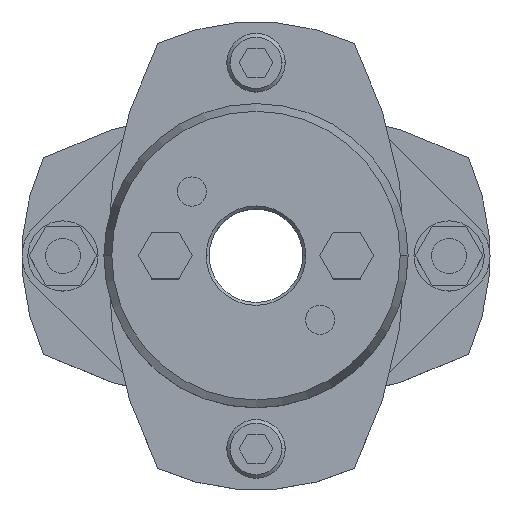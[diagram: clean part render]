
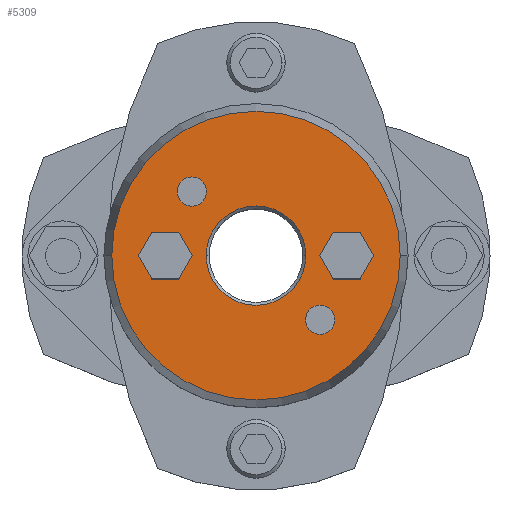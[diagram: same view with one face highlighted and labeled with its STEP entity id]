
A CAD part, top view. The second image highlights one B-rep face of the part: STEP entity #5309.
In plain terms, the highlighted planar face has unit normal (0, 0, 1).
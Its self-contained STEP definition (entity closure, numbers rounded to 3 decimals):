
#857=CARTESIAN_POINT('',(-8.5,0.,35.875));
#858=VERTEX_POINT('',#857);
#874=CARTESIAN_POINT('',(8.5,0.,35.875));
#875=VERTEX_POINT('',#874);
#882=CARTESIAN_POINT('',(0.,0.,35.875));
#883=DIRECTION('',(0.0,0.0,1.0));
#884=DIRECTION('',(-1.0,0.0,0.0));
#885=AXIS2_PLACEMENT_3D('',#882,#883,#884);
#886=CIRCLE('',#885,8.5);
#887=EDGE_CURVE('',#875,#858,#886,.T.);
#1045=CARTESIAN_POINT('',(24.66,0.,35.875));
#1046=VERTEX_POINT('',#1045);
#1053=CARTESIAN_POINT('',(-24.66,0.,35.875));
#1054=VERTEX_POINT('',#1053);
#1055=CARTESIAN_POINT('',(0.,0.,35.875));
#1056=DIRECTION('',(0.0,0.0,-1.0));
#1057=DIRECTION('',(1.0,0.0,0.0));
#1058=AXIS2_PLACEMENT_3D('',#1055,#1056,#1057);
#1059=CIRCLE('',#1058,24.66);
#1060=EDGE_CURVE('',#1046,#1054,#1059,.T.);
#1155=CARTESIAN_POINT('',(-13.46,10.96,35.875));
#1156=VERTEX_POINT('',#1155);
#1172=CARTESIAN_POINT('',(-8.46,10.96,35.875));
#1173=VERTEX_POINT('',#1172);
#1180=CARTESIAN_POINT('',(-10.96,10.96,35.875));
#1181=DIRECTION('',(0.0,0.0,-1.0));
#1182=DIRECTION('',(-1.0,0.0,0.0));
#1183=AXIS2_PLACEMENT_3D('',#1180,#1181,#1182);
#1184=CIRCLE('',#1183,2.5);
#1185=EDGE_CURVE('',#1156,#1173,#1184,.T.);
#1197=CARTESIAN_POINT('',(8.46,-10.96,35.875));
#1198=VERTEX_POINT('',#1197);
#1214=CARTESIAN_POINT('',(13.46,-10.96,35.875));
#1215=VERTEX_POINT('',#1214);
#1222=CARTESIAN_POINT('',(10.96,-10.96,35.875));
#1223=DIRECTION('',(0.0,0.0,-1.0));
#1224=DIRECTION('',(-1.0,0.0,0.0));
#1225=AXIS2_PLACEMENT_3D('',#1222,#1223,#1224);
#1226=CIRCLE('',#1225,2.5);
#1227=EDGE_CURVE('',#1198,#1215,#1226,.T.);
#4553=CARTESIAN_POINT('',(10.881,0.,35.875));
#4554=VERTEX_POINT('',#4553);
#4561=CARTESIAN_POINT('',(13.191,-4.,35.875));
#4562=VERTEX_POINT('',#4561);
#4563=CARTESIAN_POINT('',(13.191,-4.,35.875));
#4564=DIRECTION('',(-0.5,0.866,0.0));
#4565=VECTOR('',#4564,4.619);
#4566=LINE('',#4563,#4565);
#4567=EDGE_CURVE('',#4562,#4554,#4566,.T.);
#4591=CARTESIAN_POINT('',(13.191,4.,35.875));
#4592=VERTEX_POINT('',#4591);
#4599=CARTESIAN_POINT('',(10.881,0.,35.875));
#4600=DIRECTION('',(0.5,0.866,0.0));
#4601=VECTOR('',#4600,4.619);
#4602=LINE('',#4599,#4601);
#4603=EDGE_CURVE('',#4554,#4592,#4602,.T.);
#4622=CARTESIAN_POINT('',(17.809,4.,35.875));
#4623=VERTEX_POINT('',#4622);
#4630=CARTESIAN_POINT('',(13.191,4.,35.875));
#4631=DIRECTION('',(1.0,0.0,0.0));
#4632=VECTOR('',#4631,4.619);
#4633=LINE('',#4630,#4632);
#4634=EDGE_CURVE('',#4592,#4623,#4633,.T.);
#4653=CARTESIAN_POINT('',(20.119,0.,35.875));
#4654=VERTEX_POINT('',#4653);
#4661=CARTESIAN_POINT('',(17.809,4.,35.875));
#4662=DIRECTION('',(0.5,-0.866,0.0));
#4663=VECTOR('',#4662,4.619);
#4664=LINE('',#4661,#4663);
#4665=EDGE_CURVE('',#4623,#4654,#4664,.T.);
#4684=CARTESIAN_POINT('',(17.809,-4.,35.875));
#4685=VERTEX_POINT('',#4684);
#4692=CARTESIAN_POINT('',(20.119,0.,35.875));
#4693=DIRECTION('',(-0.5,-0.866,0.0));
#4694=VECTOR('',#4693,4.619);
#4695=LINE('',#4692,#4694);
#4696=EDGE_CURVE('',#4654,#4685,#4695,.T.);
#4714=CARTESIAN_POINT('',(17.809,-4.,35.875));
#4715=DIRECTION('',(-1.0,0.0,0.0));
#4716=VECTOR('',#4715,4.619);
#4717=LINE('',#4714,#4716);
#4718=EDGE_CURVE('',#4685,#4562,#4717,.T.);
#4753=CARTESIAN_POINT('',(-20.119,0.,35.875));
#4754=VERTEX_POINT('',#4753);
#4761=CARTESIAN_POINT('',(-17.809,-4.,35.875));
#4762=VERTEX_POINT('',#4761);
#4763=CARTESIAN_POINT('',(-17.809,-4.,35.875));
#4764=DIRECTION('',(-0.5,0.866,0.0));
#4765=VECTOR('',#4764,4.619);
#4766=LINE('',#4763,#4765);
#4767=EDGE_CURVE('',#4762,#4754,#4766,.T.);
#4791=CARTESIAN_POINT('',(-17.809,4.,35.875));
#4792=VERTEX_POINT('',#4791);
#4799=CARTESIAN_POINT('',(-20.119,0.,35.875));
#4800=DIRECTION('',(0.5,0.866,0.0));
#4801=VECTOR('',#4800,4.619);
#4802=LINE('',#4799,#4801);
#4803=EDGE_CURVE('',#4754,#4792,#4802,.T.);
#4822=CARTESIAN_POINT('',(-13.191,4.,35.875));
#4823=VERTEX_POINT('',#4822);
#4830=CARTESIAN_POINT('',(-17.809,4.,35.875));
#4831=DIRECTION('',(1.0,0.0,0.0));
#4832=VECTOR('',#4831,4.619);
#4833=LINE('',#4830,#4832);
#4834=EDGE_CURVE('',#4792,#4823,#4833,.T.);
#4853=CARTESIAN_POINT('',(-10.881,0.,35.875));
#4854=VERTEX_POINT('',#4853);
#4861=CARTESIAN_POINT('',(-13.191,4.,35.875));
#4862=DIRECTION('',(0.5,-0.866,0.0));
#4863=VECTOR('',#4862,4.619);
#4864=LINE('',#4861,#4863);
#4865=EDGE_CURVE('',#4823,#4854,#4864,.T.);
#4884=CARTESIAN_POINT('',(-13.191,-4.,35.875));
#4885=VERTEX_POINT('',#4884);
#4892=CARTESIAN_POINT('',(-10.881,0.,35.875));
#4893=DIRECTION('',(-0.5,-0.866,0.0));
#4894=VECTOR('',#4893,4.619);
#4895=LINE('',#4892,#4894);
#4896=EDGE_CURVE('',#4854,#4885,#4895,.T.);
#4914=CARTESIAN_POINT('',(-13.191,-4.,35.875));
#4915=DIRECTION('',(-1.0,0.0,0.0));
#4916=VECTOR('',#4915,4.619);
#4917=LINE('',#4914,#4916);
#4918=EDGE_CURVE('',#4885,#4762,#4917,.T.);
#4944=CARTESIAN_POINT('',(10.96,-10.96,35.875));
#4945=DIRECTION('',(0.0,0.0,-1.0));
#4946=DIRECTION('',(-1.0,0.0,0.0));
#4947=AXIS2_PLACEMENT_3D('',#4944,#4945,#4946);
#4948=CIRCLE('',#4947,2.5);
#4949=EDGE_CURVE('',#1215,#1198,#4948,.T.);
#4978=CARTESIAN_POINT('',(-10.96,10.96,35.875));
#4979=DIRECTION('',(0.0,0.0,-1.0));
#4980=DIRECTION('',(-1.0,0.0,0.0));
#4981=AXIS2_PLACEMENT_3D('',#4978,#4979,#4980);
#4982=CIRCLE('',#4981,2.5);
#4983=EDGE_CURVE('',#1173,#1156,#4982,.T.);
#5256=CARTESIAN_POINT('',(0.,0.,35.875));
#5257=DIRECTION('',(0.0,0.0,-1.0));
#5258=DIRECTION('',(1.0,0.0,0.0));
#5259=AXIS2_PLACEMENT_3D('',#5256,#5257,#5258);
#5260=CIRCLE('',#5259,24.66);
#5261=EDGE_CURVE('',#1054,#1046,#5260,.T.);
#5266=CARTESIAN_POINT('',(-2.364,0.,35.875));
#5267=DIRECTION('',(0.0,0.0,1.0));
#5268=DIRECTION('',(-1.0,0.0,0.0));
#5269=AXIS2_PLACEMENT_3D('',#5266,#5267,#5268);
#5270=PLANE('',#5269);
#5271=ORIENTED_EDGE('',*,*,#5261,.F.);
#5272=ORIENTED_EDGE('',*,*,#1060,.F.);
#5273=EDGE_LOOP('',(#5271,#5272));
#5274=FACE_OUTER_BOUND('',#5273,.T.);
#5275=ORIENTED_EDGE('',*,*,#4567,.T.);
#5276=ORIENTED_EDGE('',*,*,#4603,.T.);
#5277=ORIENTED_EDGE('',*,*,#4634,.T.);
#5278=ORIENTED_EDGE('',*,*,#4665,.T.);
#5279=ORIENTED_EDGE('',*,*,#4696,.T.);
#5280=ORIENTED_EDGE('',*,*,#4718,.T.);
#5281=EDGE_LOOP('',(#5275,#5276,#5277,#5278,#5279,#5280));
#5282=FACE_BOUND('',#5281,.T.);
#5283=ORIENTED_EDGE('',*,*,#4767,.T.);
#5284=ORIENTED_EDGE('',*,*,#4803,.T.);
#5285=ORIENTED_EDGE('',*,*,#4834,.T.);
#5286=ORIENTED_EDGE('',*,*,#4865,.T.);
#5287=ORIENTED_EDGE('',*,*,#4896,.T.);
#5288=ORIENTED_EDGE('',*,*,#4918,.T.);
#5289=EDGE_LOOP('',(#5283,#5284,#5285,#5286,#5287,#5288));
#5290=FACE_BOUND('',#5289,.T.);
#5291=ORIENTED_EDGE('',*,*,#1227,.T.);
#5292=ORIENTED_EDGE('',*,*,#4949,.T.);
#5293=EDGE_LOOP('',(#5291,#5292));
#5294=FACE_BOUND('',#5293,.T.);
#5295=ORIENTED_EDGE('',*,*,#1185,.T.);
#5296=ORIENTED_EDGE('',*,*,#4983,.T.);
#5297=EDGE_LOOP('',(#5295,#5296));
#5298=FACE_BOUND('',#5297,.T.);
#5299=ORIENTED_EDGE('',*,*,#887,.F.);
#5300=CARTESIAN_POINT('',(0.,0.,35.875));
#5301=DIRECTION('',(0.0,0.0,1.0));
#5302=DIRECTION('',(-1.0,0.0,0.0));
#5303=AXIS2_PLACEMENT_3D('',#5300,#5301,#5302);
#5304=CIRCLE('',#5303,8.5);
#5305=EDGE_CURVE('',#858,#875,#5304,.T.);
#5306=ORIENTED_EDGE('',*,*,#5305,.F.);
#5307=EDGE_LOOP('',(#5299,#5306));
#5308=FACE_BOUND('',#5307,.T.);
#5309=ADVANCED_FACE('',(#5274,#5282,#5290,#5294,#5298,#5308),#5270,.T.);
